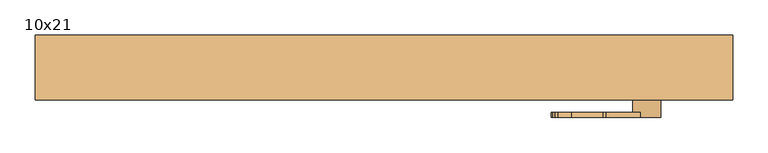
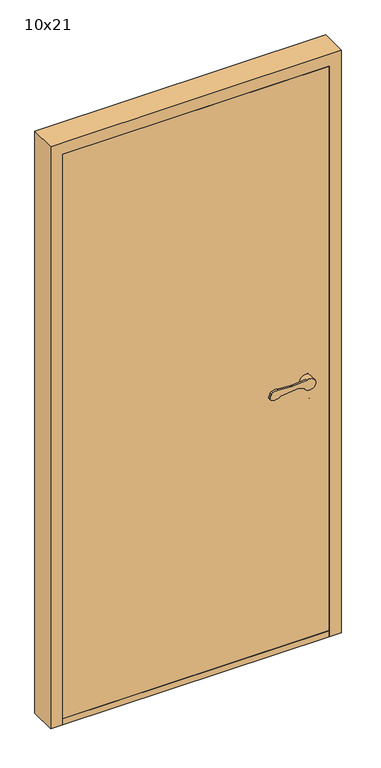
"""IFC4 building model written with IfcOpenShell, lengths in millimetres: door geometry, Innerdør Slett (Diplomat) : 10x21."""

from ifc_helpers import new_model, si_unit, point, frame, frame_2d, origin, origin_with_axes, place, context, project, spatial, polyline, circle_curve, trimmed, segment, composite_curve, outline, extrude, source, transform, mapped, element, save
from ifc_brep_helpers import plane_surface, cylinder_surface, revolved_surface, advanced_brep


def door_10x21_48b2b463(model_context):
    return source(origin(), model_context, "Body", "SolidModel", [
        advanced_brep(
        [(393.9611305, 10.0, 949.1175955), (388.8520664, 10.0, 949.9496913), (326.0476109, 10.0, 943.6260011), (296.721536, 10.0, 938.7393398), (291.8691983, 10.0, 951.8913379), (295.505009, 10.0, 959.9624074), (300.3175669, 10.0, 964.8810513), (318.8963175, 10.0, 967.2639242), (363.6202158, 10.0, 964.1804415), (368.6891233, 10.0, 964.26032), (417.2687793, 10.0, 969.1517356), (446.379633, 10.0, 951.3474568), (408.3841161, 10.0, 942.6204086), (368.6891233, 2.8915284, 964.26032), (363.6202158, 2.8915284, 964.1804415), (318.8963175, 2.8915284, 967.2639242), (300.3175669, 2.8915284, 964.8810513), (295.505009, 2.8915284, 959.9624074), (291.8691983, 2.8915284, 951.8913379), (296.721536, 2.8915284, 938.7393398), (326.0476109, 2.8915284, 943.6260011), (388.8520664, 2.8915284, 949.9496913), (393.9611305, 2.8915284, 949.1175955), (408.3841161, 2.8915284, 942.6204086), (406.379633, 2.8915284, 951.3474568), (417.2687793, 2.8915284, 969.1517356), (446.379633, -25.0, 951.3474568), (406.379633, -25.0, 951.3474568)],
        [
            (0, 1, circle_curve(frame((389.8538865, 10.0, 940.0), z_axis=(0.0, -1.0, 0.0), x_axis=(-0.9949691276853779, 0.0, -0.10018200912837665)), 10.0)),
            (1, 2),
            (2, 3, circle_curve(frame((307.8569644, 10.0, 962.352734), z_axis=(0.0, 1.0, 0.0), x_axis=(-0.9949691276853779, 0.0, -0.10018200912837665)), 26.1072815)),
            (3, 4, circle_curve(frame((300.9867937, 10.0, 947.7840939), z_axis=(0.0, 1.0, 0.0), x_axis=(-0.9949691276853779, 0.0, -0.10018200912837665)), 10.0)),
            (4, 5),
            (5, 6, circle_curve(frame((304.6226045, 10.0, 955.8551634), z_axis=(0.0, 1.0, 0.0), x_axis=(-0.9949691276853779, 0.0, -0.10018200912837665)), 10.0)),
            (6, 7, circle_curve(frame((313.2326797, 10.0, 937.8033877), z_axis=(0.0, 1.0, 0.0), x_axis=(-0.9949691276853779, 0.0, -0.10018200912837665)), 30.0)),
            (7, 8),
            (8, 9, circle_curve(frame((365.683663, 10.0, 994.1093938), z_axis=(0.0, -1.0, 0.0), x_axis=(-0.9949691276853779, 0.0, -0.10018200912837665)), 30.0)),
            (9, 10),
            (10, 11, circle_curve(frame((426.379633, 10.0, 951.3474568), z_axis=(0.0, 1.0, 0.0), x_axis=(-1.0, 0.0, 0.0)), 20.0)),
            (11, 12, circle_curve(frame((426.379633, 10.0, 951.3474568), z_axis=(0.0, 1.0, 0.0), x_axis=(-1.0, 0.0, 0.0)), 20.0)),
            (12, 0),
            (13, 14, circle_curve(frame((365.683663, 2.8915284, 994.1093938), z_axis=(0.0, 1.0, 0.0), x_axis=(-0.9949691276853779, 0.0, -0.10018200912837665)), 30.0)),
            (14, 15),
            (15, 16, circle_curve(frame((313.2326797, 2.8915284, 937.8033877), z_axis=(0.0, -1.0, 0.0), x_axis=(-0.9949691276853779, 0.0, -0.10018200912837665)), 30.0)),
            (16, 17, circle_curve(frame((304.6226045, 2.8915284, 955.8551634), z_axis=(0.0, -1.0, 0.0), x_axis=(-0.9949691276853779, 0.0, -0.10018200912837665)), 10.0)),
            (17, 18),
            (18, 19, circle_curve(frame((300.9867937, 2.8915284, 947.7840939), z_axis=(0.0, -1.0, 0.0), x_axis=(-0.9949691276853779, 0.0, -0.10018200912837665)), 10.0)),
            (19, 20, circle_curve(frame((307.8569644, 2.8915284, 962.352734), z_axis=(0.0, -1.0, 0.0), x_axis=(-0.9949691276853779, 0.0, -0.10018200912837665)), 26.1072815)),
            (20, 21),
            (21, 22, circle_curve(frame((389.8538865, 2.8915284, 940.0), z_axis=(0.0, 1.0, 0.0), x_axis=(-0.9949691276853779, 0.0, -0.10018200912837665)), 10.0)),
            (22, 23),
            (23, 24, circle_curve(frame((426.379633, 2.8915284, 951.3474568), z_axis=(0.0, 1.0, 0.0), x_axis=(-1.0, 0.0, 0.0)), 20.0)),
            (24, 25, circle_curve(frame((426.379633, 2.8915284, 951.3474568), z_axis=(0.0, 1.0, 0.0), x_axis=(-1.0, 0.0, 0.0)), 20.0)),
            (25, 13),
            (9, 13),
            (25, 10),
            (22, 0),
            (12, 23),
            (21, 1),
            (20, 2),
            (19, 3),
            (18, 4),
            (17, 5),
            (16, 6),
            (15, 7),
            (14, 8),
            (26, 27, circle_curve(frame((426.379633, -25.0, 951.3474568), z_axis=(0.0, -1.0, 0.0), x_axis=(-1.0, 0.0, 0.0)), 20.0)),
            (27, 26, circle_curve(frame((426.379633, -25.0, 951.3474568), z_axis=(0.0, -1.0, 0.0), x_axis=(-1.0, 0.0, 0.0)), 20.0)),
            (27, 24),
            (11, 26),
        ],
        [
            plane_surface(frame((417.6960588, 10.0, 969.1947577), z_axis=(0.0, 1.0000000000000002, 0.0), x_axis=(0.9949691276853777, 0.0, 0.10018200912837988))),
            plane_surface(frame((417.6960588, 2.8915284, 969.1947577), z_axis=(0.0, -1.0000000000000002, 0.0), x_axis=(-0.9949691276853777, 0.0, -0.10018200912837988))),
            plane_surface(frame((368.6891233, 10.0, 964.26032), z_axis=(-0.10018200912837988, 0.0, 0.9949691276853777), x_axis=(0.0, -1.0, 0.0))),
            plane_surface(frame((426.9687366, 10.0, 934.2485115), z_axis=(-0.41072439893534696, 0.0, -0.91175954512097), x_axis=(0.0, -1.0, 0.0))),
            revolved_surface(polyline([(379.9041952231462, 2.8915284, 938.9981799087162), (379.9041952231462, 10.0, 938.9981799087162)]), (389.8538865, 2.8915284, 940.0), (0.0, -1.0, 0.0)),
            plane_surface(frame((388.8520664, 10.0, 949.9496913), z_axis=(0.10018200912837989, 0.0, -0.9949691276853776), x_axis=(0.0, -1.0, 0.0))),
            cylinder_surface(frame((307.8569644, 2.8915284, 962.352734), z_axis=(0.0, 1.0, 0.0), x_axis=(-0.9949691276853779, 0.0, -0.10018200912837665)), 26.1072815),
            cylinder_surface(frame((300.9867937, 2.8915284, 947.7840939), z_axis=(0.0, 1.0, 0.0), x_axis=(-0.9949691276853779, 0.0, -0.10018200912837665)), 10.0),
            plane_surface(frame((291.8691983, 10.0, 951.8913379), z_axis=(-0.9117595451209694, 0.0, 0.41072439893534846), x_axis=(0.0, -1.0, 0.0))),
            cylinder_surface(frame((304.6226045, 2.8915284, 955.8551634), z_axis=(0.0, 1.0, 0.0), x_axis=(-0.9949691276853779, 0.0, -0.10018200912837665)), 10.0),
            cylinder_surface(frame((313.2326797, 2.8915284, 937.8033877), z_axis=(0.0, 1.0, 0.0), x_axis=(-0.9949691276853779, 0.0, -0.10018200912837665)), 30.0),
            plane_surface(frame((318.8963175, 10.0, 967.2639242), z_axis=(0.06878157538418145, 0.0, 0.9976317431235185), x_axis=(0.0, -1.0, 0.0))),
            revolved_surface(polyline([(335.8345891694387, 2.8915284, 991.1039335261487), (335.8345891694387, 10.0, 991.1039335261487)]), (365.683663, 2.8915284, 994.1093938), (0.0, -1.0, 0.0)),
            plane_surface(frame((406.379633, -25.0, 951.3474568), z_axis=(0.0, -1.0, 0.0), x_axis=(0.0, 0.0, -1.0))),
            cylinder_surface(frame((426.379633, -25.0, 951.3474568), z_axis=(0.0, 1.0, 0.0), x_axis=(-1.0, 0.0, 0.0)), 20.0),
        ],
        [
            (0, [[1, 2, 3, 4, 5, 6, 7, 8, 9, 10, 11, 12, 13]]),
            (1, [[14, 15, 16, 17, 18, 19, 20, 21, 22, 23, 24, 25, 26]]),
            (2, [[27, -26, 28, -10]]),
            (3, [[29, -13, 30, -23]]),
            (4, [[-1, -29, -22, 31]]),
            (5, [[-2, -31, -21, 32]]),
            (6, [[-3, -32, -20, 33]]),
            (7, [[-4, -33, -19, 34]]),
            (8, [[-5, -34, -18, 35]]),
            (9, [[-6, -35, -17, 36]]),
            (10, [[-7, -36, -16, 37]]),
            (11, [[-8, -37, -15, 38]]),
            (12, [[-9, -38, -14, -27]]),
            (13, [[39, 40]]),
            (14, [[-40, 41, -24, -30, -12, 42]]),
            (14, [[-39, -42, -11, -28, -25, -41]]),
        ],
    ),
        extrude(outline(composite_curve([segment(trimmed(circle_curve(frame_2d((866.3474568, 426.379633)), 20.0), [point((866.3474568, 446.379633))], [point((866.3474568, 406.379633))], False, "CARTESIAN"), True, "CONTINUOUS"), segment(trimmed(circle_curve(frame_2d((866.3474568, 426.379633)), 20.0), [point((866.3474568, 406.379633))], [point((866.3474568, 446.379633))], False, "CARTESIAN"), True, "CONTINUOUS")], self_intersect=False)), frame((0.0, -25.0, 0.0), z_axis=(0.0, 1.0, 0.0), x_axis=(0.0, 0.0, 1.0)), (0.0, 0.0, 1.0), 5.0),
        advanced_brep(
        [(393.9611305, -100.0, 949.1175955), (408.3841161, -100.0, 942.6204086), (446.379633, -100.0, 951.3474568), (417.2687793, -100.0, 969.1517356), (368.6891233, -100.0, 964.26032), (363.6202158, -100.0, 964.1804415), (318.8963175, -100.0, 967.2639242), (300.3175669, -100.0, 964.8810513), (295.505009, -100.0, 959.9624074), (291.8691983, -100.0, 951.8913379), (296.721536, -100.0, 938.7393398), (326.0476109, -100.0, 943.6260011), (388.8520664, -100.0, 949.9496913), (368.6891233, -92.8915284, 964.26032), (417.2687793, -92.8915284, 969.1517356), (406.379633, -92.8915284, 951.3474568), (408.3841161, -92.8915284, 942.6204086), (393.9611305, -92.8915284, 949.1175955), (388.8520664, -92.8915284, 949.9496913), (326.0476109, -92.8915284, 943.6260011), (296.721536, -92.8915284, 938.7393398), (291.8691983, -92.8915284, 951.8913379), (295.505009, -92.8915284, 959.9624074), (300.3175669, -92.8915284, 964.8810513), (318.8963175, -92.8915284, 967.2639242), (363.6202158, -92.8915284, 964.1804415), (446.379633, -65.0, 951.3474568), (406.379633, -65.0, 951.3474568)],
        [
            (0, 1),
            (1, 2, circle_curve(frame((426.379633, -100.0, 951.3474568), z_axis=(0.0, -1.0, 0.0), x_axis=(-1.0, 0.0, 0.0)), 20.0)),
            (2, 3, circle_curve(frame((426.379633, -100.0, 951.3474568), z_axis=(0.0, -1.0, 0.0), x_axis=(-1.0, 0.0, 0.0)), 20.0)),
            (3, 4),
            (4, 5, circle_curve(frame((365.683663, -100.0, 994.1093938), z_axis=(0.0, 1.0, 0.0), x_axis=(-0.9949691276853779, 0.0, -0.10018200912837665)), 30.0)),
            (5, 6),
            (6, 7, circle_curve(frame((313.2326797, -100.0, 937.8033877), z_axis=(0.0, -1.0, 0.0), x_axis=(-0.9949691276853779, 0.0, -0.10018200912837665)), 30.0)),
            (7, 8, circle_curve(frame((304.6226045, -100.0, 955.8551634), z_axis=(0.0, -1.0, 0.0), x_axis=(-0.9949691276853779, 0.0, -0.10018200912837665)), 10.0)),
            (8, 9),
            (9, 10, circle_curve(frame((300.9867937, -100.0, 947.7840939), z_axis=(0.0, -1.0, 0.0), x_axis=(-0.9949691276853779, 0.0, -0.10018200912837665)), 10.0)),
            (10, 11, circle_curve(frame((307.8569644, -100.0, 962.352734), z_axis=(0.0, -1.0, 0.0), x_axis=(-0.9949691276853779, 0.0, -0.10018200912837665)), 26.1072815)),
            (11, 12),
            (12, 0, circle_curve(frame((389.8538865, -100.0, 940.0), z_axis=(0.0, 1.0, 0.0), x_axis=(-0.9949691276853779, 0.0, -0.10018200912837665)), 10.0)),
            (13, 14),
            (14, 15, circle_curve(frame((426.379633, -92.8915284, 951.3474568), z_axis=(0.0, -1.0, 0.0), x_axis=(-1.0, 0.0, 0.0)), 20.0)),
            (15, 16, circle_curve(frame((426.379633, -92.8915284, 951.3474568), z_axis=(0.0, -1.0, 0.0), x_axis=(-1.0, 0.0, 0.0)), 20.0)),
            (16, 17),
            (17, 18, circle_curve(frame((389.8538865, -92.8915284, 940.0), z_axis=(0.0, -1.0, 0.0), x_axis=(-0.9949691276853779, 0.0, -0.10018200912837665)), 10.0)),
            (18, 19),
            (19, 20, circle_curve(frame((307.8569644, -92.8915284, 962.352734), z_axis=(0.0, 1.0, 0.0), x_axis=(-0.9949691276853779, 0.0, -0.10018200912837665)), 26.1072815)),
            (20, 21, circle_curve(frame((300.9867937, -92.8915284, 947.7840939), z_axis=(0.0, 1.0, 0.0), x_axis=(-0.9949691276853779, 0.0, -0.10018200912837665)), 10.0)),
            (21, 22),
            (22, 23, circle_curve(frame((304.6226045, -92.8915284, 955.8551634), z_axis=(0.0, 1.0, 0.0), x_axis=(-0.9949691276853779, 0.0, -0.10018200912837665)), 10.0)),
            (23, 24, circle_curve(frame((313.2326797, -92.8915284, 937.8033877), z_axis=(0.0, 1.0, 0.0), x_axis=(-0.9949691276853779, 0.0, -0.10018200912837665)), 30.0)),
            (24, 25),
            (25, 13, circle_curve(frame((365.683663, -92.8915284, 994.1093938), z_axis=(0.0, -1.0, 0.0), x_axis=(-0.9949691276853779, 0.0, -0.10018200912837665)), 30.0)),
            (3, 14),
            (13, 4),
            (16, 1),
            (0, 17),
            (12, 18),
            (11, 19),
            (10, 20),
            (9, 21),
            (8, 22),
            (7, 23),
            (6, 24),
            (5, 25),
            (26, 27, circle_curve(frame((426.379633, -65.0, 951.3474568), z_axis=(0.0, 1.0, 0.0), x_axis=(-1.0, 0.0, 0.0)), 20.0)),
            (27, 26, circle_curve(frame((426.379633, -65.0, 951.3474568), z_axis=(0.0, 1.0, 0.0), x_axis=(-1.0, 0.0, 0.0)), 20.0)),
            (26, 2),
            (15, 27),
        ],
        [
            plane_surface(frame((417.6960588, -100.0, 969.1947577), z_axis=(0.0, -1.0000000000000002, 0.0), x_axis=(0.9949691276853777, 0.0, 0.10018200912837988))),
            plane_surface(frame((417.6960588, -92.8915284, 969.1947577), z_axis=(0.0, 1.0000000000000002, 0.0), x_axis=(-0.9949691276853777, 0.0, -0.10018200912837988))),
            plane_surface(frame((368.6891233, -100.0, 964.26032), z_axis=(-0.10018200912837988, 0.0, 0.9949691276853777), x_axis=(0.0, 1.0, 0.0))),
            plane_surface(frame((426.9687366, -100.0, 934.2485115), z_axis=(-0.41072439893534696, 0.0, -0.91175954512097), x_axis=(0.0, 1.0, 0.0))),
            revolved_surface(polyline([(379.9041952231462, -92.8915284, 938.9981799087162), (379.9041952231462, -100.0, 938.9981799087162)]), (389.8538865, -92.8915284, 940.0), (0.0, 1.0, 0.0)),
            plane_surface(frame((388.8520664, -100.0, 949.9496913), z_axis=(0.10018200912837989, 0.0, -0.9949691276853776), x_axis=(0.0, 1.0, 0.0))),
            cylinder_surface(frame((307.8569644, -92.8915284, 962.352734), z_axis=(0.0, -1.0, 0.0), x_axis=(-0.9949691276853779, 0.0, -0.10018200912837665)), 26.1072815),
            cylinder_surface(frame((300.9867937, -92.8915284, 947.7840939), z_axis=(0.0, -1.0, 0.0), x_axis=(-0.9949691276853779, 0.0, -0.10018200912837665)), 10.0),
            plane_surface(frame((291.8691983, -100.0, 951.8913379), z_axis=(-0.9117595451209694, 0.0, 0.41072439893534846), x_axis=(0.0, 1.0, 0.0))),
            cylinder_surface(frame((304.6226045, -92.8915284, 955.8551634), z_axis=(0.0, -1.0, 0.0), x_axis=(-0.9949691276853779, 0.0, -0.10018200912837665)), 10.0),
            cylinder_surface(frame((313.2326797, -92.8915284, 937.8033877), z_axis=(0.0, -1.0, 0.0), x_axis=(-0.9949691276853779, 0.0, -0.10018200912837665)), 30.0),
            plane_surface(frame((318.8963175, -100.0, 967.2639242), z_axis=(0.06878157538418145, 0.0, 0.9976317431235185), x_axis=(0.0, 1.0, 0.0))),
            revolved_surface(polyline([(335.8345891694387, -92.8915284, 991.1039335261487), (335.8345891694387, -100.0, 991.1039335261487)]), (365.683663, -92.8915284, 994.1093938), (0.0, 1.0, 0.0)),
            plane_surface(frame((406.379633, -65.0, 951.3474568), z_axis=(0.0, 1.0, 0.0), x_axis=(0.0, 0.0, -1.0))),
            cylinder_surface(frame((426.379633, -65.0, 951.3474568), z_axis=(0.0, -1.0, 0.0), x_axis=(-1.0, 0.0, 0.0)), 20.0),
        ],
        [
            (0, [[1, 2, 3, 4, 5, 6, 7, 8, 9, 10, 11, 12, 13]]),
            (1, [[14, 15, 16, 17, 18, 19, 20, 21, 22, 23, 24, 25, 26]]),
            (2, [[-4, 27, -14, 28]]),
            (3, [[-17, 29, -1, 30]]),
            (4, [[31, -18, -30, -13]]),
            (5, [[32, -19, -31, -12]]),
            (6, [[33, -20, -32, -11]]),
            (7, [[34, -21, -33, -10]]),
            (8, [[35, -22, -34, -9]]),
            (9, [[36, -23, -35, -8]]),
            (10, [[37, -24, -36, -7]]),
            (11, [[38, -25, -37, -6]]),
            (12, [[-28, -26, -38, -5]]),
            (13, [[39, 40]]),
            (14, [[41, -2, -29, -16, 42, -39]]),
            (14, [[-42, -15, -27, -3, -41, -40]]),
        ],
    ),
        extrude(outline(composite_curve([segment(trimmed(circle_curve(frame_2d((866.3474568, 426.379633)), 20.0), [point((866.3474568, 446.379633))], [point((866.3474568, 406.379633))], False, "CARTESIAN"), True, "CONTINUOUS"), segment(trimmed(circle_curve(frame_2d((866.3474568, 426.379633)), 20.0), [point((866.3474568, 406.379633))], [point((866.3474568, 446.379633))], False, "CARTESIAN"), True, "CONTINUOUS")], self_intersect=False)), frame((0.0, -70.0, 0.0), z_axis=(0.0, 1.0, 0.0), x_axis=(0.0, 0.0, 1.0)), (0.0, 0.0, 1.0), 5.0),
        extrude(outline(polyline([(506.379633, 17.0), (506.379633, -75.0), (-399.620367, -75.0), (-399.620367, 17.0), (506.379633, 17.0)])), origin_with_axes(), (0.0, 0.0, 1.0), 22.0),
        extrude(outline(polyline([(506.379633, -25.0), (506.379633, -75.0), (-399.620367, -75.0), (-399.620367, -25.0), (506.379633, -25.0)])), frame((0.0, 0.0, 22.0), z_axis=(0.0, 0.0, 1.0), x_axis=(1.0, 0.0, 0.0)), (0.0, 0.0, 1.0), 2031.0),
        extrude(outline(polyline([(0.0, -399.620367), (2053.0, -399.620367), (2053.0, 506.379633), (0.0, 506.379633), (0.0, 548.379633), (2095.0, 548.379633), (2095.0, -441.620367), (0.0, -441.620367), (0.0, -399.620367)])), frame((0.0, -75.0, 0.0), z_axis=(0.0, 1.0, 0.0), x_axis=(0.0, 0.0, 1.0)), (0.0, 0.0, 1.0), 92.0),
    ])


if __name__ == "__main__":
    model = new_model("IFC4")
    model_context = context("Model", 3, world=origin())
    ifc_project = project(units=[si_unit("LENGTHUNIT", "METRE", prefix="MILLI")], contexts=[model_context])
    site = spatial("IfcSite", under=ifc_project)
    building = spatial("IfcBuilding", under=site)
    placement = place(None, origin())
    door_10x21_shape = door_10x21_48b2b463(model_context)
    element("IfcDoor", 1, ObjectType="Innerdør Slett (Diplomat) : 10x21", at=placement, inside=building, context=model_context, shape_type="MappedRepresentation", body=[
        mapped(door_10x21_shape, transform((0.0, 0.0, 0.0), x_axis=(1.0, 0.0, 0.0), y_axis=(0.0, 1.0, 0.0), z_axis=(0.0, 0.0, 1.0))),
    ])
    save(model, "model.ifc")
